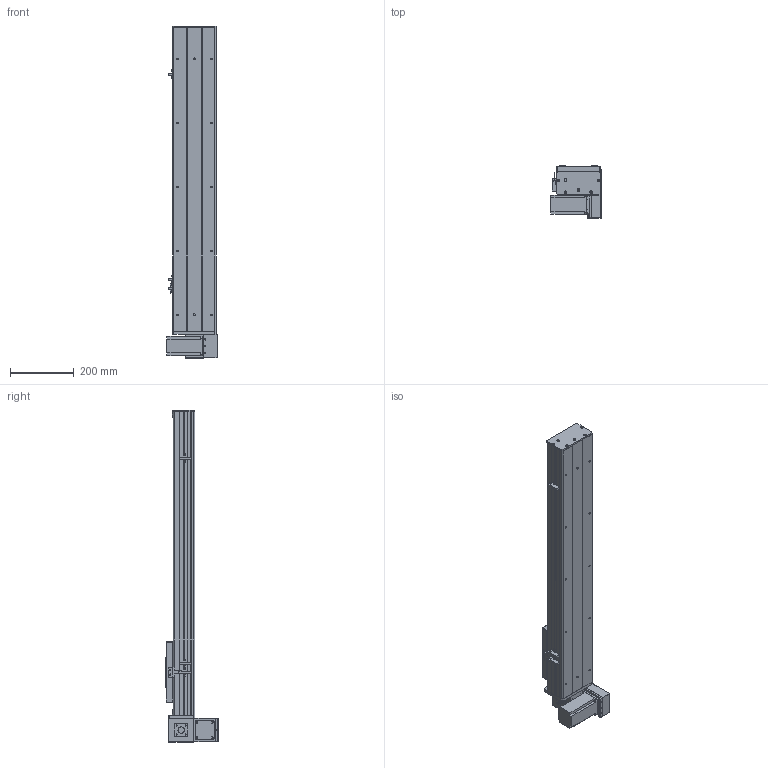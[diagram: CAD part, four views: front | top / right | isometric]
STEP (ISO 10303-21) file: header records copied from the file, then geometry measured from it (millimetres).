
FILE_DESCRIPTION (( 'STEP AP203' ), '1' );
FILE_NAME ('Y135CB-D90-S650-BM-P400W.STEP', '2020-02-18T09:22:43', ( '微软用户' ), ( '微软中国' ), 'SwSTEP 2.0', 'SolidWorks 2017', '' );
FILE_SCHEMA (( 'CONFIG_CONTROL_DESIGN' ));
Length unit declared in the file: millimetre
Products named in the file (18): 5C--俋欶; 0B-源倛裔啣; C-雄赽釱--; 0B-萇儂楊擘啣; Y10B--々湍喘謫眊--666; san松下电机400不带刹车----; 00B-俋欶BM--; 5CB --掛极耜裔啣-; Y10B-耜蚾蟀諉啣----; C-詩湍揤踡え-陔; Y135CB-耜裔; Y135CB-D90-S650-BM-P400W; 135CB--詩湍-CE; 135CB---遴掛极.-; Y100-135俋离換覜ん--; 35CB---喘謫眊楊擘啣; Y135C-陔俋离換覜結え-; 0B-埴倛裔啣
Assembly tree (21 placements, depth 2):
  Y135CB-D90-S650-BM-P400W
    Y135CB-耜裔
    135CB---遴掛极.-
    35CB---喘謫眊楊擘啣
    0B-埴倛裔啣
    0B-源倛裔啣
    0B-萇儂楊擘啣
    san松下电机400不带刹车----
    5CB --掛极耜裔啣-  x2
    C-詩湍揤踡え-陔  x2
    135CB--詩湍-CE
    Y100-135俋离換覜ん--  x3
    Y135C-陔俋离換覜結え-
    5C--俋欶
    C-雄赽釱--
    Y10B--々湍喘謫眊--666
    00B-俋欶BM--
    Y10B-耜蚾蟀諉啣----
Bounding box: 157 x 163.3 x 1038 mm (x, y, z)
Volume: 3477590.7 mm3; surface area: 1351311.3 mm2
Topology: 21 solids, 21 shells, 937 faces, 2491 edges, 1650 vertices
Faces by surface type: cylinder 465, plane 456, cone 16
Entity records: 28945 total; most frequent: DIRECTION 4807, CARTESIAN_POINT 4724, ORIENTED_EDGE 4458, EDGE_CURVE 2229, AXIS2_PLACEMENT_3D 1749, VERTEX_POINT 1478, VECTOR 1309, LINE 1309
